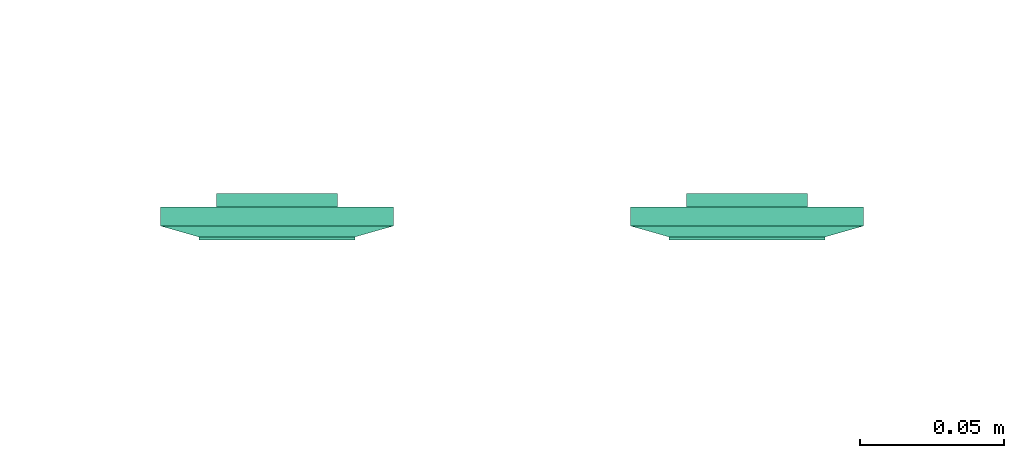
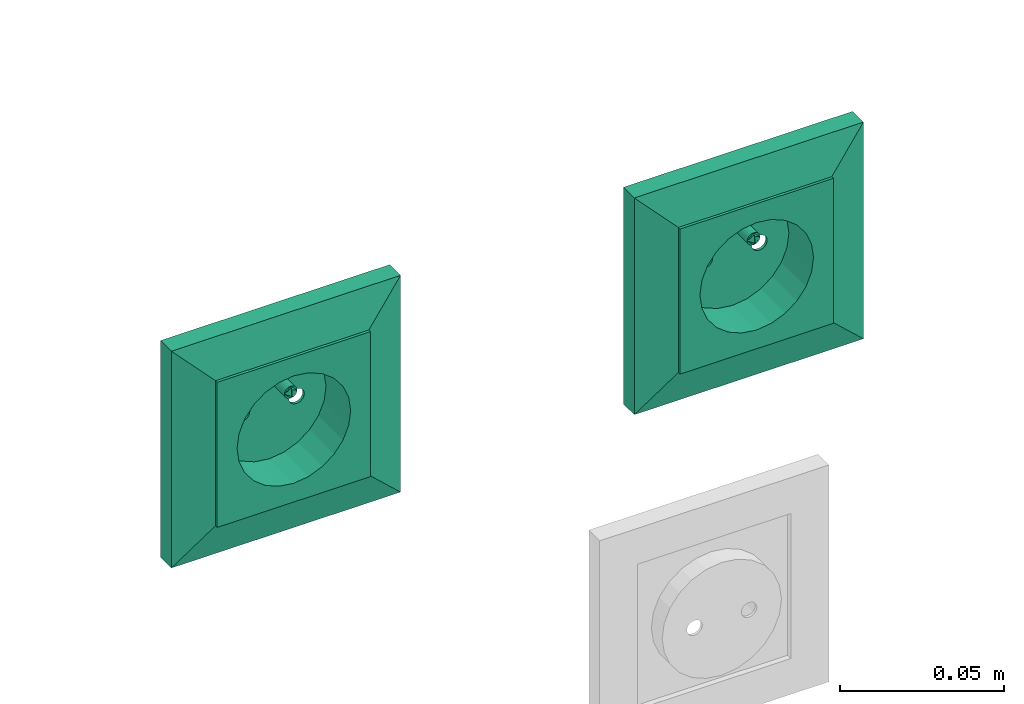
# One storey, part 49 of 146: 2 flow terminals.
"""IFC2X3 building model written with IfcOpenShell, lengths in metres."""

from ifc_helpers import new_model, entity, si_unit, converted_unit, derived_unit, direction, frame, origin, place, context, subcontext, project, spatial, face_set, surface_model, source, transform, mapped, type_object, type_shapes, element, save


model = new_model("IFC2X3")

# Units and contexts
model_context = context("Model", 3, precision=1e-05, world=origin(), true_north=direction((6.12303176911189e-17, 1.0)))
body_context = subcontext(model_context, "Body", "Model", "MODEL_VIEW")
ifc_project = project(units=[si_unit("LENGTHUNIT", "METRE"), si_unit("AREAUNIT", "SQUARE_METRE"), si_unit("VOLUMEUNIT", "CUBIC_METRE"), converted_unit("PLANEANGLEUNIT", "DEGREE", entity("IfcRatioMeasure", 0.0174532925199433), si_unit("PLANEANGLEUNIT", "RADIAN"), dimensions=[0, 0, 0, 0, 0, 0, 0]), si_unit("MASSUNIT", "GRAM", prefix="KILO"), derived_unit("MASSDENSITYUNIT", [(si_unit("MASSUNIT", "GRAM", prefix="KILO"), 1), (si_unit("LENGTHUNIT", "METRE"), -3)]), si_unit("TIMEUNIT", "SECOND"), si_unit("FREQUENCYUNIT", "HERTZ"), si_unit("THERMODYNAMICTEMPERATUREUNIT", "DEGREE_CELSIUS"), derived_unit("THERMALTRANSMITTANCEUNIT", [(si_unit("MASSUNIT", "GRAM", prefix="KILO"), 1), (si_unit("THERMODYNAMICTEMPERATUREUNIT", "KELVIN"), -1), (si_unit("TIMEUNIT", "SECOND"), -3)]), derived_unit("VOLUMETRICFLOWRATEUNIT", [(si_unit("LENGTHUNIT", "METRE"), 3), (si_unit("TIMEUNIT", "SECOND"), -1)]), si_unit("ELECTRICCURRENTUNIT", "AMPERE"), si_unit("ELECTRICVOLTAGEUNIT", "VOLT"), si_unit("POWERUNIT", "WATT"), si_unit("FORCEUNIT", "NEWTON"), si_unit("ILLUMINANCEUNIT", "LUX"), si_unit("LUMINOUSFLUXUNIT", "LUMEN"), si_unit("LUMINOUSINTENSITYUNIT", "CANDELA"), derived_unit("USERDEFINED", [(si_unit("MASSUNIT", "GRAM", prefix="KILO"), -1), (si_unit("LENGTHUNIT", "METRE"), -2), (si_unit("TIMEUNIT", "SECOND"), 3), (si_unit("LUMINOUSFLUXUNIT", "LUMEN"), 1)]), derived_unit("LINEARVELOCITYUNIT", [(si_unit("LENGTHUNIT", "METRE"), 1), (si_unit("TIMEUNIT", "SECOND"), -1)]), si_unit("PRESSUREUNIT", "PASCAL"), derived_unit("USERDEFINED", [(si_unit("LENGTHUNIT", "METRE"), -2), (si_unit("MASSUNIT", "GRAM", prefix="KILO"), 1), (si_unit("TIMEUNIT", "SECOND"), -2)])], contexts=[model_context])

# Site, building, storey
site_placement = place(None, origin())
site = spatial("IfcSite", under=ifc_project, at=site_placement, Name="Default", CompositionType="ELEMENT")
building_placement = place(site_placement, origin())
building = spatial("IfcBuilding", under=site, at=building_placement, CompositionType="ELEMENT")
storey_placement = place(building_placement, origin())
storey = spatial("IfcBuildingStorey", under=building, at=storey_placement, Name="S01", CompositionType="ELEMENT", Elevation=0.0)

# Flow terminals
light_fixture_type = type_object("IfcLightFixtureType", Name="PC IP20", PredefinedType="NOTDEFINED")
shared_shape = source(origin(), body_context, "Body", "SurfaceModel", [
    surface_model("IfcFaceBasedSurfaceModel", [(-0.00225000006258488, 0.0127499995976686, 0.00949633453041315), (0.0, 0.0104999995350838, 0.00949633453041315), (0.0, 0.0115376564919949, 0.0101656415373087), (0.0, 0.0139623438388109, 0.0101656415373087), (0.0, 0.0144589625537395, 0.00984531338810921), (0.0, 0.0121178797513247, 0.0102778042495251), (0.0, 0.0133821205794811, 0.0102778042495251), (0.0, 0.0127499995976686, 0.010399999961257), (0.0, 0.0149999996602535, 0.00949633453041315), (0.00225000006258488, 0.0127499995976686, 0.00949633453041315), (0.0, 0.0110410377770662, 0.00984531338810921), (0.0, 0.0127499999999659, 0.00949633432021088), (0.00225000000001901, 0.0127499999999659, 0.00949633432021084), (0.00217333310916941, 0.0121676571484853, 0.00949633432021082), (0.00194855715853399, 0.0116249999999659, 0.00949633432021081), (0.00159099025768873, 0.0111590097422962, 0.00949633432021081), (0.001125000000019, 0.010801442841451, 0.00949633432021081), (0.00058234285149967, 0.0105766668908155, 0.00949633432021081), (0.0, 0.0104999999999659, 0.00949633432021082), (-0.000582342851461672, 0.0105766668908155, 0.00949633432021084), (-0.001124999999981, 0.010801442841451, 0.00949633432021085), (-0.00159099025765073, 0.0111590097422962, 0.00949633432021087), (-0.00194855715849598, 0.011624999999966, 0.00949633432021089), (-0.0021733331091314, 0.0121676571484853, 0.00949633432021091), (-0.00224999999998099, 0.012749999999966, 0.00949633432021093), (-0.00217333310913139, 0.0133323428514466, 0.00949633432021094), (-0.00194855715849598, 0.013874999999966, 0.00949633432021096), (-0.00159099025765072, 0.0143409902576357, 0.00949633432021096), (-0.00112499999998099, 0.0146985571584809, 0.00949633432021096), (-0.00058234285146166, 0.0149233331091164, 0.00949633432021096), (0.0, 0.0149999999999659, 0.00949633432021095), (0.000582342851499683, 0.0149233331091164, 0.00949633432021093), (0.00112500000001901, 0.0146985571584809, 0.00949633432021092), (0.00159099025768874, 0.0143409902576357, 0.00949633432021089), (0.001948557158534, 0.0138749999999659, 0.00949633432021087), (0.00217333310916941, 0.0133323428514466, 0.00949633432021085), (0.00225000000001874, 0.0127499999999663, -0.00360000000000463), (0.00217333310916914, 0.0121676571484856, -0.00360000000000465), (0.00194855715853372, 0.0116249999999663, -0.00360000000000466), (0.00159099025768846, 0.0111590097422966, -0.00360000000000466), (0.00112500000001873, 0.0108014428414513, -0.00360000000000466), (0.000582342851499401, 0.0105766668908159, -0.00360000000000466), (0.0, 0.0104999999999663, -0.00360000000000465), (-0.000582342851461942, 0.0105766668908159, -0.00360000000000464), (-0.00112499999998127, 0.0108014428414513, -0.00360000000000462), (-0.001590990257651, 0.0111590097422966, -0.0036000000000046), (-0.00194855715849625, 0.0116249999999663, -0.00360000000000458), (-0.00217333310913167, 0.0121676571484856, -0.00360000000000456), (-0.00224999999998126, 0.0127499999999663, -0.00360000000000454), (-0.00217333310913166, 0.013332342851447, -0.00360000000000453), (-0.00194855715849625, 0.0138749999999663, -0.00360000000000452), (-0.00159099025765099, 0.014340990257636, -0.00360000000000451), (-0.00112499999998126, 0.0146985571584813, -0.00360000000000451), (-0.000582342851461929, 0.0149233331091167, -0.00360000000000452), (0.0, 0.0149999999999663, -0.00360000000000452), (0.000582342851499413, 0.0149233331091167, -0.00360000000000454), (0.00112500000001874, 0.0146985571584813, -0.00360000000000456), (0.00159099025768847, 0.014340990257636, -0.00360000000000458), (0.00194855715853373, 0.0138749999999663, -0.0036000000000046), (0.00217333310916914, 0.013332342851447, -0.00360000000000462), (0.0270000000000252, 0.026999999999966, 0.0113999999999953), (-0.0269999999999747, 0.026999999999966, 0.0113999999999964), (-0.0269999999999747, -0.0270000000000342, 0.0113999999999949), (0.0270000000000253, -0.0270000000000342, 0.0113999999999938), (-0.0199999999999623, 0.0, 0.0113999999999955), (-0.0193185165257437, -0.00517638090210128, 0.0113999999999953), (-0.0173205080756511, -0.0100000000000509, 0.0113999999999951), (-0.0141421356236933, -0.0141421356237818, 0.011399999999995), (-0.00999999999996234, -0.0173205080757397, 0.0113999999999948), (-0.00517638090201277, -0.0193185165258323, 0.0113999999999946), (0.0, -0.0200000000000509, 0.0113999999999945), (0.00517638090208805, -0.0193185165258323, 0.0113999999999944), (0.0100000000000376, -0.0173205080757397, 0.0113999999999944), (0.0141421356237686, -0.0141421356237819, 0.0113999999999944), (0.0173205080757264, -0.010000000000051, 0.0113999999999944), (0.0193185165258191, -0.00517638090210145, 0.0113999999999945), (0.0200000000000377, 0.0, 0.0113999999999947), (0.0193185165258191, 0.00517638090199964, 0.0113999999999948), (0.0173205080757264, 0.0099999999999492, 0.011399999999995), (0.0141421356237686, 0.0141421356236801, 0.0113999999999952), (0.0100000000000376, 0.0173205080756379, 0.0113999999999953), (0.00517638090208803, 0.0193185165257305, 0.0113999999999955), (0.0, 0.0199999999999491, 0.0113999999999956), (-0.00517638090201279, 0.0193185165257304, 0.0113999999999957), (-0.00999999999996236, 0.0173205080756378, 0.0113999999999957), (-0.0141421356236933, 0.01414213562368, 0.0113999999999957), (-0.0173205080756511, 0.00999999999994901, 0.0113999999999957), (-0.0193185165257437, 0.00517638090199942, 0.0113999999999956), (0.0270000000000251, 0.0269999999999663, 0.00199999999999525), (0.0270000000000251, -0.0270000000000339, 0.00199999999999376), (-0.0269999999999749, -0.0270000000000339, 0.00199999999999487), (-0.0269999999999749, 0.0269999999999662, 0.00199999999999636), (0.0210000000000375, 0.0, 0.00199999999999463), (0.0202844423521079, -0.00543519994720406, 0.00199999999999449), (0.0181865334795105, -0.0105000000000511, 0.0019999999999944), (0.0148492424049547, -0.0148492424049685, 0.00199999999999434), (0.0105000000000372, -0.0181865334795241, 0.00199999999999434), (0.0054351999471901, -0.0202844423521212, 0.00199999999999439), (0.0, -0.0210000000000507, 0.00199999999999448), (-0.00543519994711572, -0.020284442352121, 0.00199999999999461), (-0.0104999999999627, -0.0181865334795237, 0.00199999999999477), (-0.0148492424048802, -0.014849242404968, 0.00199999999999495), (-0.0181865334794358, -0.0105000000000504, 0.00199999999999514), (-0.020284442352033, -0.00543519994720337, 0.00199999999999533), (-0.0209999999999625, 0.0, 0.00199999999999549), (-0.0202844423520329, 0.0054351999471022, 0.00199999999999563), (-0.0181865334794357, 0.0104999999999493, 0.00199999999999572), (-0.01484924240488, 0.0148492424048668, 0.00199999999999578), (-0.0104999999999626, 0.0181865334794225, 0.00199999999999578), (-0.00543519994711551, 0.0202844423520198, 0.00199999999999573), (0.0, 0.0209999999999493, 0.00199999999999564), (0.00543519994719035, 0.0202844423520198, 0.00199999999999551), (0.0105000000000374, 0.0181865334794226, 0.00199999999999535), (0.0148492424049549, 0.0148492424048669, 0.00199999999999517), (0.0181865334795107, 0.0104999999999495, 0.00199999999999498), (0.0202844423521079, 0.00543519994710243, 0.00199999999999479), (0.0200000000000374, 0.0, -0.00360000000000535), (0.0193185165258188, -0.00517638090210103, -0.00360000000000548), (0.0173205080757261, -0.0100000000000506, -0.00360000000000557), (0.0141421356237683, -0.0141421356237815, -0.00360000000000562), (0.0100000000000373, -0.0173205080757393, -0.00360000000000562), (0.00517638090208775, -0.0193185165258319, -0.00360000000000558), (0.0, -0.0200000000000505, -0.00360000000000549), (-0.00517638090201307, -0.0193185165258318, -0.00360000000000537), (-0.00999999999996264, -0.0173205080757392, -0.00360000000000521), (-0.0141421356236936, -0.0141421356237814, -0.00360000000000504), (-0.0173205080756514, -0.0100000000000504, -0.00360000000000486), (-0.019318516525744, -0.00517638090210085, -0.00360000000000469), (-0.0199999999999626, 0.0, -0.00360000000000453), (-0.0193185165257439, 0.00517638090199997, -0.0036000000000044), (-0.0173205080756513, 0.00999999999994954, -0.00360000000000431), (-0.0141421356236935, 0.0141421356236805, -0.00360000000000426), (-0.00999999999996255, 0.0173205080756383, -0.00360000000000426), (-0.00517638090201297, 0.0193185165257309, -0.0036000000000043), (0.0, 0.0199999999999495, -0.00360000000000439), (0.00517638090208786, 0.0193185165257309, -0.00360000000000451), (0.0100000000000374, 0.0173205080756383, -0.00360000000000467), (0.0141421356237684, 0.0141421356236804, -0.00360000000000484), (0.0173205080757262, 0.0099999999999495, -0.00360000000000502), (0.0193185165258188, 0.00517638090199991, -0.00360000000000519), (-0.0123499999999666, 0.0, -0.00360000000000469), (-0.0122562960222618, -0.000711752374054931, -0.00360000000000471), (-0.0119815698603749, -0.00137500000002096, -0.00360000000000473), (-0.0115445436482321, -0.00194454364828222, -0.00360000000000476), (-0.0109749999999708, -0.00238156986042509, -0.00360000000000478), (-0.0103117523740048, -0.00265629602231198, -0.0036000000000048), (-0.00959999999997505, -0.00275000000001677, -0.00360000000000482), (-0.0088882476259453, -0.00265629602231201, -0.00360000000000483), (-0.00822499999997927, -0.00238156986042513, -0.00360000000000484), (-0.00765545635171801, -0.00194454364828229, -0.00360000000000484), (-0.00721843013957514, -0.00137500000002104, -0.00360000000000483), (-0.00694370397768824, -0.000711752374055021, -0.00360000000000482), (-0.00684999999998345, 0.0, -0.0036000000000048), (-0.00694370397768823, 0.000711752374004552, -0.00360000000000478), (-0.00721843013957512, 0.00137499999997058, -0.00360000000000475), (-0.00765545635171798, 0.00194454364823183, -0.00360000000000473), (-0.00822499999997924, 0.00238156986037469, -0.0036000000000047), (-0.00888824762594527, 0.00265629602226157, -0.00360000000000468), (-0.00959999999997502, 0.00274999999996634, -0.00360000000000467), (-0.0103117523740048, 0.00265629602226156, -0.00360000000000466), (-0.0109749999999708, 0.00238156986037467, -0.00360000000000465), (-0.011544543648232, 0.00194454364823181, -0.00360000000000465), (-0.0119815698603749, 0.00137499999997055, -0.00360000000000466), (-0.0122562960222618, 0.000711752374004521, -0.00360000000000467), (0.00685000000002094, 0.0, -0.00360000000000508), (0.0069437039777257, -0.00071175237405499, -0.0036000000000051), (0.00721843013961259, -0.00137500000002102, -0.00360000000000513), (0.00765545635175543, -0.00194454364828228, -0.00360000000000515), (0.00822500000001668, -0.00238156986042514, -0.00360000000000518), (0.00888824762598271, -0.00265629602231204, -0.0036000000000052), (0.00960000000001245, -0.00275000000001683, -0.00360000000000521), (0.0103117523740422, -0.00265629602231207, -0.00360000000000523), (0.0109750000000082, -0.00238156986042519, -0.00360000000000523), (0.0115445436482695, -0.00194454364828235, -0.00360000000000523), (0.0119815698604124, -0.0013750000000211, -0.00360000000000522), (0.0122562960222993, -0.00071175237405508, -0.00360000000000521), (0.012350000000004, 0.0, -0.00360000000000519), (0.0122562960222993, 0.000711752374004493, -0.00360000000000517), (0.0119815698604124, 0.00137499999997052, -0.00360000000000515), (0.0115445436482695, 0.00194454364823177, -0.00360000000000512), (0.0109750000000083, 0.00238156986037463, -0.0036000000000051), (0.0103117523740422, 0.00265629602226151, -0.00360000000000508), (0.00960000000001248, 0.00274999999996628, -0.00360000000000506), (0.00888824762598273, 0.0026562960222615, -0.00360000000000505), (0.0082250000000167, 0.00238156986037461, -0.00360000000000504), (0.00765545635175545, 0.00194454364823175, -0.00360000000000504), (0.0072184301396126, 0.00137499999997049, -0.00360000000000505), (0.00694370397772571, 0.000711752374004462, -0.00360000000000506), (0.0210000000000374, 0.0, -0.00460000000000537), (0.0202844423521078, -0.00543519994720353, -0.00460000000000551), (0.0181865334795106, -0.0105000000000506, -0.0046000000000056), (0.0148492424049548, -0.0148492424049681, -0.00460000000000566), (0.0105000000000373, -0.0181865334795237, -0.00460000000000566), (0.00543519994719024, -0.0202844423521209, -0.00460000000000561), (0.0, -0.0210000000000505, -0.00460000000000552), (-0.00543519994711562, -0.0202844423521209, -0.00460000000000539), (-0.0104999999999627, -0.0181865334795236, -0.00460000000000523), (-0.0148492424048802, -0.0148492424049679, -0.00460000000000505), (-0.0181865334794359, -0.0105000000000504, -0.00460000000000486), (-0.0202844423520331, -0.00543519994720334, -0.00460000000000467), (-0.0209999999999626, 0.0, -0.00460000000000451), (-0.020284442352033, 0.00543519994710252, -0.00460000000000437), (-0.0181865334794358, 0.0104999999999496, -0.00460000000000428), (-0.0148492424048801, 0.0148492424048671, -0.00460000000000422), (-0.0104999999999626, 0.0181865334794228, -0.00460000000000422), (-0.00543519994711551, 0.02028444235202, -0.00460000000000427), (0.0, 0.0209999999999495, -0.00460000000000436), (0.00543519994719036, 0.02028444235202, -0.00460000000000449), (0.0105000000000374, 0.0181865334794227, -0.00460000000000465), (0.0148492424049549, 0.014849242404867, -0.00460000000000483), (0.0181865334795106, 0.0104999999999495, -0.00460000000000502), (0.0202844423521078, 0.00543519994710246, -0.00460000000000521), (-0.00684999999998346, 0.0, -0.0046000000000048), (-0.00694370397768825, 0.000711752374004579, -0.00460000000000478), (-0.00721843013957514, 0.00137499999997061, -0.00460000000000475), (-0.007655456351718, 0.00194454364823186, -0.00460000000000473), (-0.00822499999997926, 0.00238156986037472, -0.0046000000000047), (-0.00888824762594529, 0.0026562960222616, -0.00460000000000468), (-0.00959999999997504, 0.00274999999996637, -0.00460000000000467), (-0.0103117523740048, 0.00265629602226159, -0.00460000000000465), (-0.0109749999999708, 0.0023815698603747, -0.00460000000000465), (-0.0115445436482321, 0.00194454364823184, -0.00460000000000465), (-0.0119815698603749, 0.00137499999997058, -0.00460000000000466), (-0.0122562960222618, 0.000711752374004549, -0.00460000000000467), (-0.0123499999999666, 0.0, -0.00460000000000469), (-0.0122562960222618, -0.000711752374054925, -0.00460000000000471), (-0.0119815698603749, -0.00137500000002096, -0.00460000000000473), (-0.0115445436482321, -0.00194454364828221, -0.00460000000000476), (-0.0109749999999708, -0.00238156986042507, -0.00460000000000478), (-0.0103117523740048, -0.00265629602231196, -0.0046000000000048), (-0.00959999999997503, -0.00275000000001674, -0.00460000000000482), (-0.00888824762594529, -0.00265629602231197, -0.00460000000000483), (-0.00822499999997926, -0.00238156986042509, -0.00460000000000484), (-0.007655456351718, -0.00194454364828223, -0.00460000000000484), (-0.00721843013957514, -0.00137500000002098, -0.00460000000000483), (-0.00694370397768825, -0.000711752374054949, -0.00460000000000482), (0.012350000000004, 0.0, -0.00460000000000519), (0.0122562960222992, 0.000711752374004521, -0.00460000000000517), (0.0119815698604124, 0.00137499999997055, -0.00460000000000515), (0.0115445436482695, 0.0019445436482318, -0.00460000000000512), (0.0109750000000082, 0.00238156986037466, -0.0046000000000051), (0.0103117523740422, 0.00265629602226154, -0.00460000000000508), (0.00960000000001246, 0.00274999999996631, -0.00460000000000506), (0.00888824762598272, 0.00265629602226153, -0.00460000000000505), (0.00822500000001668, 0.00238156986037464, -0.00460000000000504), (0.00765545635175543, 0.00194454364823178, -0.00460000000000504), (0.00721843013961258, 0.00137499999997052, -0.00460000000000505), (0.00694370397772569, 0.00071175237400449, -0.00460000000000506), (0.00685000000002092, 0.0, -0.00460000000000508), (0.00694370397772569, -0.000711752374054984, -0.0046000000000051), (0.00721843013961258, -0.00137500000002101, -0.00460000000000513), (0.00765545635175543, -0.00194454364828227, -0.00460000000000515), (0.00822500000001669, -0.00238156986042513, -0.00460000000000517), (0.00888824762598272, -0.00265629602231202, -0.0046000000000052), (0.00960000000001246, -0.0027500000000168, -0.00460000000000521), (0.0103117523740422, -0.00265629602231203, -0.00460000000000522), (0.0109750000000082, -0.00238156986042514, -0.00460000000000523), (0.0115445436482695, -0.00194454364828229, -0.00460000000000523), (0.0119815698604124, -0.00137500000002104, -0.00460000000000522), (0.0122562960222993, -0.000711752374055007, -0.00460000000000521), (0.040350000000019, 0.0403499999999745, 0.00659999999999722), (0.040350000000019, -0.0403500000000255, 0.00659999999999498), (-0.0403499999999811, -0.0403500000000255, 0.00659999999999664), (-0.0403499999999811, 0.0403499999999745, 0.00659999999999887), (0.027000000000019, 0.0269999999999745, 0.00659999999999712), (-0.0269999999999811, 0.0269999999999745, 0.00659999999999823), (-0.026999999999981, -0.0270000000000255, 0.00659999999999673), (0.027000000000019, -0.0270000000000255, 0.00659999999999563), (0.027000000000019, 0.0269999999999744, 0.0103999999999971), (-0.026999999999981, 0.0269999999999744, 0.0103999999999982), (-0.026999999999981, -0.0270000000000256, 0.0103999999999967), (0.027000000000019, -0.0270000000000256, 0.0103999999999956), (0.040350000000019, 0.0403499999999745, 0.00659999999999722), (0.040350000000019, -0.0403500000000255, 0.00659999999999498), (-0.0403499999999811, -0.0403500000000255, 0.00659999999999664), (-0.0403499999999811, 0.0403499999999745, 0.00659999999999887), (-0.0269999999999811, 0.0269999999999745, 0.00659999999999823), (-0.0269999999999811, -0.0270000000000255, 0.00659999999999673), (0.0270000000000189, -0.0270000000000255, 0.00659999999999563), (0.0270000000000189, 0.0269999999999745, 0.00659999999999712), (0.0403500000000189, 0.0403499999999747, 0.0), (0.0403500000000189, -0.0403500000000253, 0.0), (-0.0403499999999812, -0.0403500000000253, 0.0), (-0.0403499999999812, 0.0403499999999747, 0.0), (0.0270000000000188, 0.0269999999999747, 0.0), (-0.0269999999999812, 0.0269999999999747, 0.0), (-0.0269999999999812, -0.0270000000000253, 0.0), (0.0270000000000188, -0.0270000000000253, 0.0)], [face_set([[[0, 1, 2]], [[3, 4, 2, 5]], [[6, 3, 5, 7]], [[2, 4, 0]], [[4, 8, 0]], [[3, 9, 8]], [[1, 9, 10]], [[2, 3, 6, 7]], [[3, 10, 9]], [[2, 10, 3]], [[11, 1, 0, 8]], [[11, 8, 9, 1]]]), face_set([[[12, 13, 14, 15, 16, 17, 18, 19, 20, 21, 22, 23, 24, 25, 26, 27, 28, 29, 30, 31, 32, 33, 34, 35]], [[36, 37, 38, 39, 40, 41, 42, 43, 44, 45, 46, 47, 48, 49, 50, 51, 52, 53, 54, 55, 56, 57, 58, 59]], [[48, 47, 23, 24]], [[47, 46, 22, 23]], [[45, 44, 20, 21]], [[46, 45, 21, 22]], [[44, 43, 19, 20]], [[18, 19, 43, 42]], [[42, 41, 17, 18]], [[41, 40, 16, 17]], [[39, 38, 14, 15]], [[40, 39, 15, 16]], [[38, 37, 13, 14]], [[12, 13, 37, 36]], [[36, 59, 35, 12]], [[59, 58, 34, 35]], [[57, 56, 32, 33]], [[58, 57, 33, 34]], [[56, 55, 31, 32]], [[30, 31, 55, 54]], [[54, 53, 29, 30]], [[53, 52, 28, 29]], [[51, 50, 26, 27]], [[52, 51, 27, 28]], [[50, 49, 25, 26]], [[24, 25, 49, 48]]]), face_set([[[60, 61, 62, 63], [64, 65, 66, 67, 68, 69, 70, 71, 72, 73, 74, 75, 76, 77, 78, 79, 80, 81, 82, 83, 84, 85, 86, 87]], [[88, 89, 90, 91], [92, 93, 94, 95, 96, 97, 98, 99, 100, 101, 102, 103, 104, 105, 106, 107, 108, 109, 110, 111, 112, 113, 114, 115]], [[61, 60, 88, 91]], [[62, 61, 91, 90]], [[63, 62, 90, 89]], [[60, 63, 89, 88]], [[116, 117, 118, 119, 120, 121, 122, 123, 124, 125, 126, 127, 128, 129, 130, 131, 132, 133, 134, 135, 136, 137, 138, 139], [140, 141, 142, 143, 144, 145, 146, 147, 148, 149, 150, 151, 152, 153, 154, 155, 156, 157, 158, 159, 160, 161, 162, 163], [164, 165, 166, 167, 168, 169, 170, 171, 172, 173, 174, 175, 176, 177, 178, 179, 180, 181, 182, 183, 184, 185, 186, 187]], [[64, 128, 127, 65]], [[65, 127, 126, 66]], [[67, 125, 124, 68]], [[66, 126, 125, 67]], [[68, 124, 123, 69]], [[122, 70, 69, 123]], [[70, 122, 121, 71]], [[71, 121, 120, 72]], [[73, 119, 118, 74]], [[72, 120, 119, 73]], [[74, 118, 117, 75]], [[116, 76, 75, 117]], [[76, 116, 139, 77]], [[77, 139, 138, 78]], [[79, 137, 136, 80]], [[78, 138, 137, 79]], [[80, 136, 135, 81]], [[134, 82, 81, 135]], [[82, 134, 133, 83]], [[83, 133, 132, 84]], [[84, 132, 131, 85]], [[85, 131, 130, 86]], [[130, 129, 87, 86]], [[64, 87, 129, 128]], [[188, 189, 190, 191, 192, 193, 194, 195, 196, 197, 198, 199, 200, 201, 202, 203, 204, 205, 206, 207, 208, 209, 210, 211], [212, 213, 214, 215, 216, 217, 218, 219, 220, 221, 222, 223, 224, 225, 226, 227, 228, 229, 230, 231, 232, 233, 234, 235], [236, 237, 238, 239, 240, 241, 242, 243, 244, 245, 246, 247, 248, 249, 250, 251, 252, 253, 254, 255, 256, 257, 258, 259]], [[200, 199, 103, 104]], [[199, 198, 102, 103]], [[197, 196, 100, 101]], [[198, 197, 101, 102]], [[196, 195, 99, 100]], [[98, 99, 195, 194]], [[194, 193, 97, 98]], [[193, 192, 96, 97]], [[191, 190, 94, 95]], [[192, 191, 95, 96]], [[190, 189, 93, 94]], [[92, 93, 189, 188]], [[188, 211, 115, 92]], [[211, 210, 114, 115]], [[209, 208, 112, 113]], [[210, 209, 113, 114]], [[208, 207, 111, 112]], [[110, 111, 207, 206]], [[206, 205, 109, 110]], [[205, 204, 108, 109]], [[203, 202, 106, 107]], [[204, 203, 107, 108]], [[202, 201, 105, 106]], [[104, 105, 201, 200]], [[141, 225, 226, 142]], [[140, 224, 225, 141]], [[144, 228, 229, 145]], [[143, 227, 228, 144]], [[142, 226, 227, 143]], [[230, 146, 145, 229]], [[149, 233, 232, 148]], [[148, 232, 231, 147]], [[152, 212, 235, 151]], [[151, 235, 234, 150]], [[150, 234, 233, 149]], [[146, 230, 231, 147]], [[154, 214, 213, 153]], [[153, 213, 212, 152]], [[157, 217, 216, 156]], [[156, 216, 215, 155]], [[155, 215, 214, 154]], [[218, 158, 157, 217]], [[160, 220, 221, 161]], [[159, 219, 220, 160]], [[163, 223, 224, 140]], [[162, 222, 223, 163]], [[161, 221, 222, 162]], [[158, 218, 219, 159]], [[166, 250, 249, 165]], [[165, 249, 248, 164]], [[169, 253, 252, 168]], [[168, 252, 251, 167]], [[167, 251, 250, 166]], [[254, 170, 169, 253]], [[172, 256, 257, 173]], [[171, 255, 256, 172]], [[175, 259, 236, 176]], [[174, 258, 259, 175]], [[173, 257, 258, 174]], [[170, 254, 255, 171]], [[177, 237, 238, 178]], [[176, 236, 237, 177]], [[180, 240, 241, 181]], [[179, 239, 240, 180]], [[178, 238, 239, 179]], [[242, 182, 181, 241]], [[185, 245, 244, 184]], [[184, 244, 243, 183]], [[164, 248, 247, 187]], [[187, 247, 246, 186]], [[186, 246, 245, 185]], [[182, 242, 243, 183]]]), face_set([[[260, 261, 262, 263], [264, 265, 266, 267]], [[260, 268, 269, 263]], [[263, 269, 270, 262]], [[262, 270, 271, 261]], [[261, 271, 268, 260]], [[264, 265, 269, 268]], [[265, 266, 270, 269]], [[266, 267, 271, 270]], [[268, 271, 267, 264]]]), face_set([[[272, 273, 274, 275], [276, 277, 278, 279]], [[280, 281, 282, 283], [284, 285, 286, 287]], [[275, 272, 280, 283]], [[274, 275, 283, 282]], [[273, 274, 282, 281]], [[272, 273, 281, 280]], [[284, 285, 276, 279]], [[285, 286, 277, 276]], [[286, 287, 278, 277]], [[279, 278, 287, 284]]])]),
])
type_shapes(light_fixture_type, [shared_shape])
for number, where, z_axis, x_axis in (
    (1, (50.963442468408, -190.689444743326, 0.320000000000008), (0.0, -1.0, 0.0), (1.0, 0.0, 0.0)),
    (2, (51.126442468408, -190.689444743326, 0.320000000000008), (0.0, -1.0, 0.0), (1.0, 0.0, 0.0)),
):
    element("IfcFlowTerminal", number, at=place(storey_placement, frame(where, z_axis=z_axis, x_axis=x_axis)), inside=storey, type_object=light_fixture_type, Name="INT Prise de courant:PC IP20", ObjectType="INT Prise de courant:PC IP20", context=body_context, shape_type="MappedRepresentation", body=[
        mapped(shared_shape, transform((0.0, 0.0, 0.0), scale=1.0)),
    ])

save(model, "model.ifc")
